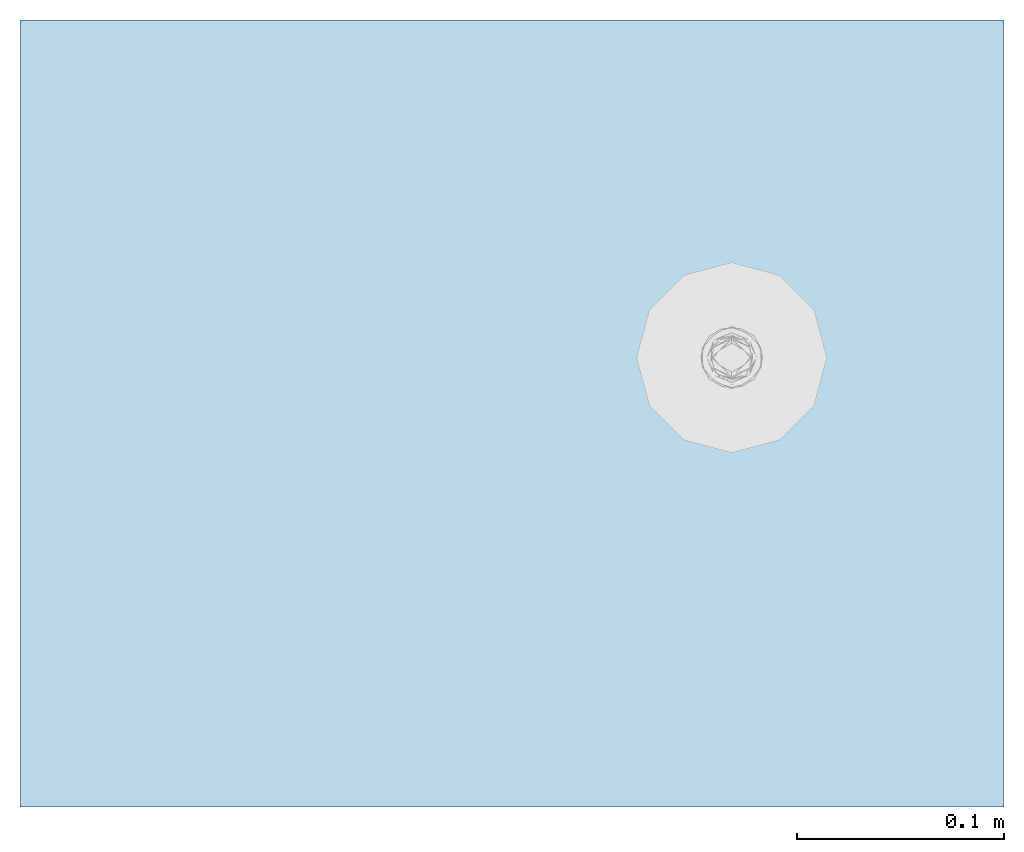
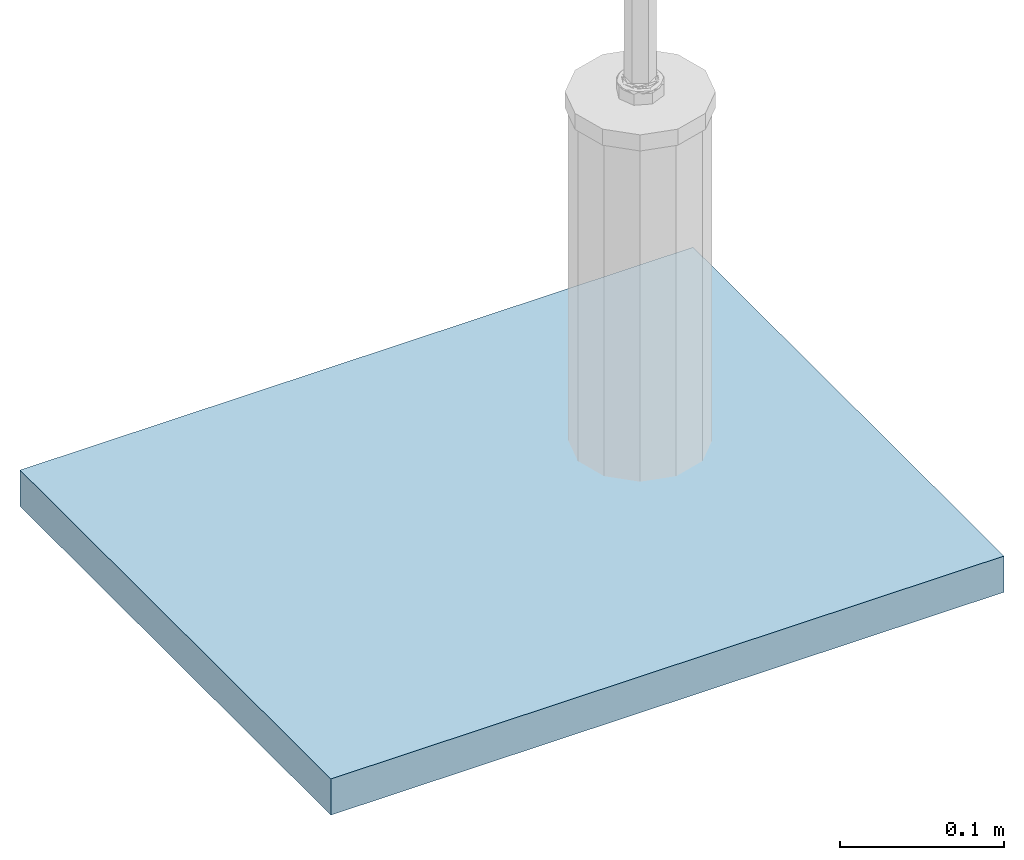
# One storey, part 1 of 2: 1 slab.
"""IFC2X3 building model written with IfcOpenShell, lengths in millimetres."""

from ifc_helpers import new_model, entity, si_unit, converted_unit, derived_unit, direction, frame, origin, origin_2d_with_axis, place, context, subcontext, project, spatial, rectangle, extrude, material, layer, layer_set, layer_usage, element, save


model = new_model("IFC2X3")

# Units and contexts
model_context = context("Model", 3, precision=1e-05, world=origin(), true_north=direction((2.0, 6.12303176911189e-17, 1.0)))
context_of_model = context(None, 3, precision=1e-05, world=origin(), true_north=direction((2.0, 6.12303176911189e-17, 1.0)))
body_context = subcontext(model_context, "Body", "Model", "MODEL_VIEW")
ifc_project = project(units=[si_unit("LENGTHUNIT", "METRE", prefix="MILLI"), si_unit("AREAUNIT", "SQUARE_METRE"), si_unit("VOLUMEUNIT", "CUBIC_METRE"), converted_unit("PLANEANGLEUNIT", "DEGREE", entity("IfcRatioMeasure", 0.0174532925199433), si_unit("PLANEANGLEUNIT", "RADIAN"), dimensions=[0, 0, 0, 0, 0, 0, 0]), si_unit("MASSUNIT", "GRAM", prefix="KILO"), si_unit("TIMEUNIT", "SECOND"), si_unit("THERMODYNAMICTEMPERATUREUNIT", "KELVIN"), derived_unit("THERMALTRANSMITTANCEUNIT", [(si_unit("MASSUNIT", "GRAM", prefix="KILO"), 1), (si_unit("THERMODYNAMICTEMPERATUREUNIT", "KELVIN"), -1), (si_unit("TIMEUNIT", "SECOND"), -3)]), derived_unit("VOLUMETRICFLOWRATEUNIT", [(si_unit("LENGTHUNIT", "METRE"), 3), (si_unit("TIMEUNIT", "SECOND"), -1)]), si_unit("POWERUNIT", "WATT")], contexts=[model_context, context_of_model])

# Site, building, storey
site_placement = place(None, origin())
site = spatial("IfcSite", under=ifc_project, at=site_placement, Name="Default", CompositionType="ELEMENT")
building_placement = place(site_placement, origin())
building = spatial("IfcBuilding", under=site, at=building_placement, CompositionType="ELEMENT")
storey_placement = place(building_placement, origin())
storey = spatial("IfcBuildingStorey", under=building, at=storey_placement, Name="Level 1", CompositionType="ELEMENT", Elevation=0.0)

# Slab
ifc_material = material(Name="Analytical Floor Surface")
ifc_layer = layer(ifc_material, 27.0)
ifc_layer_set = layer_set([ifc_layer], Name="Floor:Counter")
ifc_layer_usage = layer_usage(ifc_layer_set, "AXIS3", "POSITIVE", 0.0)
slab_placement = place(storey_placement, origin())
element("IfcSlab", 1, at=slab_placement, inside=storey, material=ifc_layer_usage, Name="Floor:Counter:2279", ObjectType="Floor:Counter", PredefinedType="FLOOR", context=body_context, shape_type="SweptSolid", body=[
    extrude(rectangle(XDim=380.0, YDim=475.0, at=origin_2d_with_axis()), frame((1729.21334627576, 148.415143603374, 0.0), z_axis=(0.0, 0.0, -1.0), x_axis=(0.0, 1.0, 0.0)), (0.0, 0.0, 1.0), 27.0),
])

save(model, "model.ifc")
